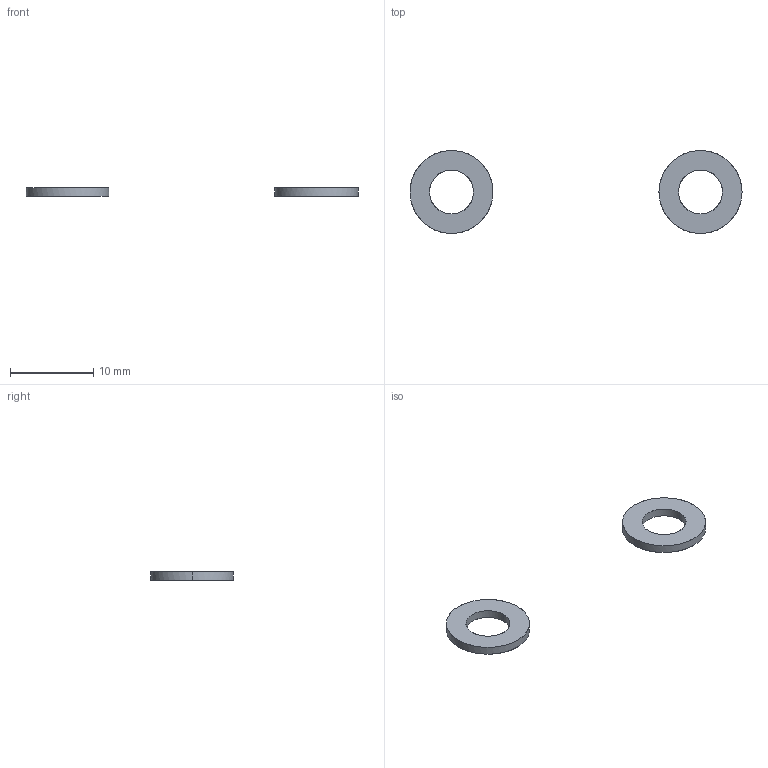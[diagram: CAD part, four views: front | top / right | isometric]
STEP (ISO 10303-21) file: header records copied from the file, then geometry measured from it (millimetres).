
FILE_DESCRIPTION(/* description */ (''),/* implementation_level */ '2;1');
FILE_NAME(/* name */ '8.x-drive#8.1#PWF5',/* time_stamp */ '2014-12-01T20:17:53+01:00',/* author */ (''),/* organization */ (''),/* preprocessor_version */ 'ST-DEVELOPER v14',/* originating_system */ '',/* authorisation */ '');
FILE_SCHEMA (('AUTOMOTIVE_DESIGN'));
Length unit declared in the file: millimetre
Products named in the file (2): Document; washer DIN125-like, form A, M5
Assembly tree (1 placements, depth 2):
  Document
    washer DIN125-like, form A, M5
Bounding box: 40 x 9.99 x 1 mm (x, y, z)
Surface area: 322.9 mm2 (no closed solid volume)
Topology: 0 solids, 12 shells, 12 faces, 40 edges, 40 vertices
Faces by surface type: bspline 8, plane 4
Entity records: 1037 total; most frequent: CARTESIAN_POINT 512, B_SPLINE_CURVE_WITH_KNOTS 48, ORIENTED_EDGE 40, PCURVE 40, DEFINITIONAL_REPRESENTATION 40, SURFACE_CURVE 40, EDGE_CURVE 40, VERTEX_POINT 40
